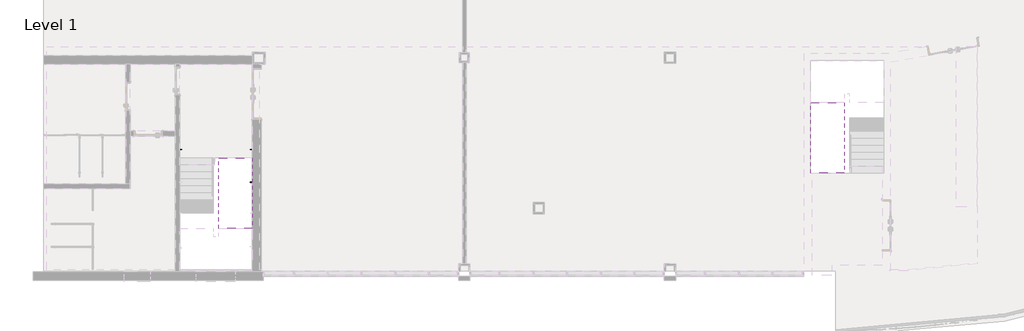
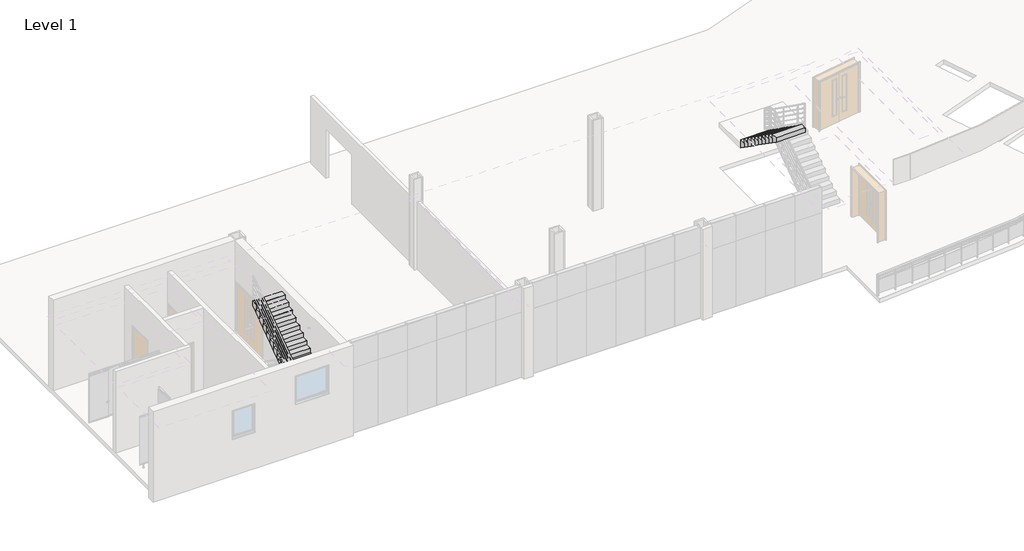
# One storey, part 10 of 12: 3 proxies, 2 stair flights.
"""IFC4 building model written with IfcOpenShell, lengths in millimetres."""

from ifc_helpers import new_model, si_unit, frame, origin, place, context, project, spatial, polyline, outline, extrude, faceted_brep, transform, mapped, element, save
from components import support_metal_circular_support_metal_circular_016e83f0

model = new_model("IFC4")

# Units and contexts
model_context = context("Model", 3, world=origin())
ifc_project = project(units=[si_unit("LENGTHUNIT", "METRE", prefix="MILLI")], contexts=[model_context])

# Site, building, storey
site = spatial("IfcSite", under=ifc_project)
building = spatial("IfcBuilding", under=site)
storey = spatial("IfcBuildingStorey", under=building, Name="Level 1", Elevation=3900.0)

# Proxies
placement = place(None, origin())
support_metal_circular_support_metal_circular_shape = support_metal_circular_support_metal_circular_016e83f0(model_context)
element("IfcBuildingElementProxy", 1, Name="Support - Metal - Circular : Support - Metal - Circular", ObjectType="Support - Metal - Circular : Support - Metal - Circular", at=placement, inside=storey, context=model_context, shape_type="MappedRepresentation", body=[
    mapped(support_metal_circular_support_metal_circular_shape, transform((5322.6000025, 4600.0, 4959.7727273), x_axis=(0.0, 1.0, 0.0), y_axis=(-1.0, 0.0, 0.0), z_axis=(0.0, 0.0, 1.0))),
])
element("IfcBuildingElementProxy", 2, Name="Support - Metal - Circular : Support - Metal - Circular", ObjectType="Support - Metal - Circular : Support - Metal - Circular", at=placement, inside=storey, context=model_context, shape_type="MappedRepresentation", body=[
    mapped(support_metal_circular_support_metal_circular_shape, transform((7761.8000023, 3437.7155261, 4171.0619185), x_axis=(0.0, -1.0, 0.0), y_axis=(1.0, 0.0, 0.0), z_axis=(0.0, 0.0, 1.0))),
])
element("IfcBuildingElementProxy", 3, Name="Support - Metal - Circular : Support - Metal - Circular", ObjectType="Support - Metal - Circular : Support - Metal - Circular", at=placement, inside=storey, context=model_context, shape_type="MappedRepresentation", body=[
    mapped(support_metal_circular_support_metal_circular_shape, transform((7761.8000023, 4600.0, 4782.5), x_axis=(0.0, -1.0, 0.0), y_axis=(1.0, 0.0, 0.0), z_axis=(0.0, 0.0, 1.0))),
])

# Stair flights
element("IfcStairFlight", 4, ObjectType="1/16\"_Tread-6\"_Depth", at=placement, inside=storey, context=model_context, shape_type="SolidModel", body=[
    faceted_brep([(6637.2000026, 2050.0, 6026.2727273), (6637.2000026, 1800.0, 6026.2727273), (7837.2000024, 1800.0, 6026.2727273), (7837.2000024, 2050.0, 6026.2727273), (6637.2000026, 2050.0, 5842.3890055), (6637.2000026, 1800.0, 5665.1162782), (6637.2000026, 1800.0, 5849.0), (7837.2000024, 1800.0, 5665.1162782), (7837.2000024, 1800.0, 5849.0), (7837.2000024, 2050.0, 5842.3890055), (6637.2000026, 2300.0, 6203.5454545), (6637.2000026, 2050.0, 6203.5454545), (7837.2000024, 2050.0, 6203.5454545), (7837.2000024, 2300.0, 6203.5454545), (6637.2000026, 2300.0, 6019.6617328), (7837.2000024, 2300.0, 6019.6617328), (6637.2000026, 2550.0, 6380.8181818), (6637.2000026, 2300.0, 6380.8181818), (7837.2000024, 2300.0, 6380.8181818), (7837.2000024, 2550.0, 6380.8181818), (6637.2000026, 2550.0, 6196.93446), (7837.2000024, 2550.0, 6196.93446), (6637.2000026, 2800.0, 6558.0909091), (6637.2000026, 2550.0, 6558.0909091), (7837.2000024, 2550.0, 6558.0909091), (7837.2000024, 2800.0, 6558.0909091), (6637.2000026, 2800.0, 6374.2071873), (7837.2000024, 2800.0, 6374.2071873), (6637.2000026, 3050.0, 6735.3636364), (6637.2000026, 2800.0, 6735.3636364), (7837.2000024, 2800.0, 6735.3636364), (7837.2000024, 3050.0, 6735.3636364), (6637.2000026, 3050.0, 6551.4799146), (7837.2000024, 3050.0, 6551.4799146), (6637.2000026, 3300.0, 6912.6363636), (6637.2000026, 3050.0, 6912.6363636), (7837.2000024, 3050.0, 6912.6363636), (7837.2000024, 3300.0, 6912.6363636), (6637.2000026, 3300.0, 6728.7526418), (7837.2000024, 3300.0, 6728.7526418), (6637.2000026, 3550.0, 7089.9090909), (6637.2000026, 3300.0, 7089.9090909), (7837.2000024, 3300.0, 7089.9090909), (7837.2000024, 3550.0, 7089.9090909), (6637.2000026, 3550.0, 6906.0253691), (7837.2000024, 3550.0, 6906.0253691), (6637.2000026, 3800.0, 7267.1818182), (6637.2000026, 3550.0, 7267.1818182), (7837.2000024, 3550.0, 7267.1818182), (7837.2000024, 3800.0, 7267.1818182), (6637.2000026, 3800.0, 7083.2980964), (7837.2000024, 3800.0, 7083.2980964), (6637.2000026, 4050.0, 7444.4545455), (6637.2000026, 3800.0, 7444.4545455), (7837.2000024, 3800.0, 7444.4545455), (7837.2000024, 4050.0, 7444.4545455), (6637.2000026, 4050.0, 7260.5708237), (7837.2000024, 4050.0, 7260.5708237), (6637.2000026, 4300.0, 7437.8435509), (7837.2000024, 4300.0, 7437.8435509), (6637.2000026, 4300.0, 7621.7272727), (6637.2000026, 4050.0, 7621.7272727), (7837.2000024, 4050.0, 7621.7272727), (7837.2000024, 4300.0, 7621.7272727)], [[[0, 1, 2, 3]], [[1, 0, 4, 5, 6]], [[2, 1, 6, 5, 7, 8]], [[3, 2, 8, 7, 9]], [[10, 11, 12, 13]], [[11, 10, 14, 4, 0]], [[12, 11, 0, 3]], [[13, 12, 3, 9, 15]], [[16, 17, 18, 19]], [[17, 16, 20, 14, 10]], [[18, 17, 10, 13]], [[19, 18, 13, 15, 21]], [[22, 23, 24, 25]], [[23, 22, 26, 20, 16]], [[24, 23, 16, 19]], [[25, 24, 19, 21, 27]], [[28, 29, 30, 31]], [[29, 28, 32, 26, 22]], [[30, 29, 22, 25]], [[31, 30, 25, 27, 33]], [[34, 35, 36, 37]], [[35, 34, 38, 32, 28]], [[36, 35, 28, 31]], [[37, 36, 31, 33, 39]], [[40, 41, 42, 43]], [[41, 40, 44, 38, 34]], [[42, 41, 34, 37]], [[43, 42, 37, 39, 45]], [[46, 47, 48, 49]], [[47, 46, 50, 44, 40]], [[48, 47, 40, 43]], [[49, 48, 43, 45, 51]], [[52, 53, 54, 55]], [[53, 52, 56, 50, 46]], [[54, 53, 46, 49]], [[55, 54, 49, 51, 57]], [[5, 4, 14, 20, 26, 32, 38, 44, 50, 56, 58, 59, 57, 51, 45, 39, 33, 27, 21, 15, 9, 7]], [[60, 61, 62, 63]], [[61, 60, 58, 56, 52]], [[62, 61, 52, 55]], [[63, 62, 55, 57, 59]], [[60, 63, 59, 58]]]),
    extrude(outline(polyline([(6637.2000026, 2050.0), (7837.2000024, 2050.0), (7837.2000024, 1800.0), (6637.2000026, 1800.0), (6637.2000026, 2050.0)])), frame((0.0, 0.0, 6026.2727273), z_axis=(0.0, 0.0, 1.0), x_axis=(1.0, 0.0, 0.0)), (0.0, 0.0, 1.0), 1.0),
    extrude(outline(polyline([(6637.2000026, 2300.0), (7837.2000024, 2300.0), (7837.2000024, 2050.0), (6637.2000026, 2050.0), (6637.2000026, 2300.0)])), frame((0.0, 0.0, 6203.5454545), z_axis=(0.0, 0.0, 1.0), x_axis=(1.0, 0.0, 0.0)), (0.0, 0.0, 1.0), 1.0),
    extrude(outline(polyline([(6637.2000026, 2550.0), (7837.2000024, 2550.0), (7837.2000024, 2300.0), (6637.2000026, 2300.0), (6637.2000026, 2550.0)])), frame((0.0, 0.0, 6380.8181818), z_axis=(0.0, 0.0, 1.0), x_axis=(1.0, 0.0, 0.0)), (0.0, 0.0, 1.0), 1.0),
    extrude(outline(polyline([(6637.2000026, 2800.0), (7837.2000024, 2800.0), (7837.2000024, 2550.0), (6637.2000026, 2550.0), (6637.2000026, 2800.0)])), frame((0.0, 0.0, 6558.0909091), z_axis=(0.0, 0.0, 1.0), x_axis=(1.0, 0.0, 0.0)), (0.0, 0.0, 1.0), 1.0),
    extrude(outline(polyline([(6637.2000026, 3050.0), (7837.2000024, 3050.0), (7837.2000024, 2800.0), (6637.2000026, 2800.0), (6637.2000026, 3050.0)])), frame((0.0, 0.0, 6735.3636364), z_axis=(0.0, 0.0, 1.0), x_axis=(1.0, 0.0, 0.0)), (0.0, 0.0, 1.0), 1.0),
    extrude(outline(polyline([(6637.2000026, 3300.0), (7837.2000024, 3300.0), (7837.2000024, 3050.0), (6637.2000026, 3050.0), (6637.2000026, 3300.0)])), frame((0.0, 0.0, 6912.6363636), z_axis=(0.0, 0.0, 1.0), x_axis=(1.0, 0.0, 0.0)), (0.0, 0.0, 1.0), 1.0),
    extrude(outline(polyline([(6637.2000026, 3550.0), (7837.2000024, 3550.0), (7837.2000024, 3300.0), (6637.2000026, 3300.0), (6637.2000026, 3550.0)])), frame((0.0, 0.0, 7089.9090909), z_axis=(0.0, 0.0, 1.0), x_axis=(1.0, 0.0, 0.0)), (0.0, 0.0, 1.0), 1.0),
    extrude(outline(polyline([(6637.2000026, 3800.0), (7837.2000024, 3800.0), (7837.2000024, 3550.0), (6637.2000026, 3550.0), (6637.2000026, 3800.0)])), frame((0.0, 0.0, 7267.1818182), z_axis=(0.0, 0.0, 1.0), x_axis=(1.0, 0.0, 0.0)), (0.0, 0.0, 1.0), 1.0),
    extrude(outline(polyline([(6637.2000026, 4050.0), (7837.2000024, 4050.0), (7837.2000024, 3800.0), (6637.2000026, 3800.0), (6637.2000026, 4050.0)])), frame((0.0, 0.0, 7444.4545455), z_axis=(0.0, 0.0, 1.0), x_axis=(1.0, 0.0, 0.0)), (0.0, 0.0, 1.0), 1.0),
    extrude(outline(polyline([(6637.2000026, 4300.0), (7837.2000024, 4300.0), (7837.2000024, 4050.0), (6637.2000026, 4050.0), (6637.2000026, 4300.0)])), frame((0.0, 0.0, 7621.7272727), z_axis=(0.0, 0.0, 1.0), x_axis=(1.0, 0.0, 0.0)), (0.0, 0.0, 1.0), 1.0),
])
element("IfcStairFlight", 5, ObjectType="1/16\"_Tread-6\"_Depth", at=placement, inside=storey, context=model_context, shape_type="SolidModel", body=[
    faceted_brep([(28862.2000029, 6013.2000006, 6026.2727273), (28862.2000029, 6263.2000006, 6026.2727273), (27662.2000031, 6263.2000006, 6026.2727273), (27662.2000031, 6013.2000006, 6026.2727273), (28862.2000029, 6013.2000006, 5842.3890055), (28862.2000029, 6263.2000006, 5665.1162782), (28862.2000029, 6263.2000006, 5849.0), (27662.2000031, 6263.2000006, 5665.1162782), (27662.2000031, 6263.2000006, 5849.0), (27662.2000031, 6013.2000006, 5842.3890055), (28862.2000029, 5763.2000006, 6203.5454545), (28862.2000029, 6013.2000006, 6203.5454545), (27662.2000031, 6013.2000006, 6203.5454545), (27662.2000031, 5763.2000006, 6203.5454545), (28862.2000029, 5763.2000006, 6019.6617328), (27662.2000031, 5763.2000006, 6019.6617328), (28862.2000029, 5513.2000006, 6380.8181818), (28862.2000029, 5763.2000006, 6380.8181818), (27662.2000031, 5763.2000006, 6380.8181818), (27662.2000031, 5513.2000006, 6380.8181818), (28862.2000029, 5513.2000006, 6196.93446), (27662.2000031, 5513.2000006, 6196.93446), (28862.2000029, 5263.2000006, 6558.0909091), (28862.2000029, 5513.2000006, 6558.0909091), (27662.2000031, 5513.2000006, 6558.0909091), (27662.2000031, 5263.2000006, 6558.0909091), (28862.2000029, 5263.2000006, 6374.2071873), (27662.2000031, 5263.2000006, 6374.2071873), (28862.2000029, 5013.2000006, 6735.3636364), (28862.2000029, 5263.2000006, 6735.3636364), (27662.2000031, 5263.2000006, 6735.3636364), (27662.2000031, 5013.2000006, 6735.3636364), (28862.2000029, 5013.2000006, 6551.4799146), (27662.2000031, 5013.2000006, 6551.4799146), (28862.2000029, 4763.2000006, 6912.6363636), (28862.2000029, 5013.2000006, 6912.6363636), (27662.2000031, 5013.2000006, 6912.6363636), (27662.2000031, 4763.2000006, 6912.6363636), (28862.2000029, 4763.2000006, 6728.7526418), (27662.2000031, 4763.2000006, 6728.7526418), (28862.2000029, 4513.2000006, 7089.9090909), (28862.2000029, 4763.2000006, 7089.9090909), (27662.2000031, 4763.2000006, 7089.9090909), (27662.2000031, 4513.2000006, 7089.9090909), (28862.2000029, 4513.2000006, 6906.0253691), (27662.2000031, 4513.2000006, 6906.0253691), (28862.2000029, 4263.2000006, 7267.1818182), (28862.2000029, 4513.2000006, 7267.1818182), (27662.2000031, 4513.2000006, 7267.1818182), (27662.2000031, 4263.2000006, 7267.1818182), (28862.2000029, 4263.2000006, 7083.2980964), (27662.2000031, 4263.2000006, 7083.2980964), (28862.2000029, 4013.2000006, 7444.4545455), (28862.2000029, 4263.2000006, 7444.4545455), (27662.2000031, 4263.2000006, 7444.4545455), (27662.2000031, 4013.2000006, 7444.4545455), (28862.2000029, 4013.2000006, 7260.5708237), (27662.2000031, 4013.2000006, 7260.5708237), (28862.2000029, 3763.2000006, 7437.8435509), (27662.2000031, 3763.2000006, 7437.8435509), (28862.2000029, 3763.2000006, 7621.7272727), (28862.2000029, 4013.2000006, 7621.7272727), (27662.2000031, 4013.2000006, 7621.7272727), (27662.2000031, 3763.2000006, 7621.7272727)], [[[0, 1, 2, 3]], [[1, 0, 4, 5, 6]], [[2, 1, 6, 5, 7, 8]], [[3, 2, 8, 7, 9]], [[10, 11, 12, 13]], [[11, 10, 14, 4, 0]], [[12, 11, 0, 3]], [[13, 12, 3, 9, 15]], [[16, 17, 18, 19]], [[17, 16, 20, 14, 10]], [[18, 17, 10, 13]], [[19, 18, 13, 15, 21]], [[22, 23, 24, 25]], [[23, 22, 26, 20, 16]], [[24, 23, 16, 19]], [[25, 24, 19, 21, 27]], [[28, 29, 30, 31]], [[29, 28, 32, 26, 22]], [[30, 29, 22, 25]], [[31, 30, 25, 27, 33]], [[34, 35, 36, 37]], [[35, 34, 38, 32, 28]], [[36, 35, 28, 31]], [[37, 36, 31, 33, 39]], [[40, 41, 42, 43]], [[41, 40, 44, 38, 34]], [[42, 41, 34, 37]], [[43, 42, 37, 39, 45]], [[46, 47, 48, 49]], [[47, 46, 50, 44, 40]], [[48, 47, 40, 43]], [[49, 48, 43, 45, 51]], [[52, 53, 54, 55]], [[53, 52, 56, 50, 46]], [[54, 53, 46, 49]], [[55, 54, 49, 51, 57]], [[5, 4, 14, 20, 26, 32, 38, 44, 50, 56, 58, 59, 57, 51, 45, 39, 33, 27, 21, 15, 9, 7]], [[60, 61, 62, 63]], [[61, 60, 58, 56, 52]], [[62, 61, 52, 55]], [[63, 62, 55, 57, 59]], [[60, 63, 59, 58]]]),
    extrude(outline(polyline([(28862.2000029, 6013.2000006), (27662.2000031, 6013.2000006), (27662.2000031, 6263.2000006), (28862.2000029, 6263.2000006), (28862.2000029, 6013.2000006)])), frame((0.0, 0.0, 6026.2727273), z_axis=(0.0, 0.0, 1.0), x_axis=(1.0, 0.0, 0.0)), (0.0, 0.0, 1.0), 1.0),
    extrude(outline(polyline([(28862.2000029, 5763.2000006), (27662.2000031, 5763.2000006), (27662.2000031, 6013.2000006), (28862.2000029, 6013.2000006), (28862.2000029, 5763.2000006)])), frame((0.0, 0.0, 6203.5454545), z_axis=(0.0, 0.0, 1.0), x_axis=(1.0, 0.0, 0.0)), (0.0, 0.0, 1.0), 1.0),
    extrude(outline(polyline([(28862.2000029, 5513.2000006), (27662.2000031, 5513.2000006), (27662.2000031, 5763.2000006), (28862.2000029, 5763.2000006), (28862.2000029, 5513.2000006)])), frame((0.0, 0.0, 6380.8181818), z_axis=(0.0, 0.0, 1.0), x_axis=(1.0, 0.0, 0.0)), (0.0, 0.0, 1.0), 1.0),
    extrude(outline(polyline([(28862.2000029, 5263.2000006), (27662.2000031, 5263.2000006), (27662.2000031, 5513.2000006), (28862.2000029, 5513.2000006), (28862.2000029, 5263.2000006)])), frame((0.0, 0.0, 6558.0909091), z_axis=(0.0, 0.0, 1.0), x_axis=(1.0, 0.0, 0.0)), (0.0, 0.0, 1.0), 1.0),
    extrude(outline(polyline([(28862.2000029, 5013.2000006), (27662.2000031, 5013.2000006), (27662.2000031, 5263.2000006), (28862.2000029, 5263.2000006), (28862.2000029, 5013.2000006)])), frame((0.0, 0.0, 6735.3636364), z_axis=(0.0, 0.0, 1.0), x_axis=(1.0, 0.0, 0.0)), (0.0, 0.0, 1.0), 1.0),
    extrude(outline(polyline([(28862.2000029, 4763.2000006), (27662.2000031, 4763.2000006), (27662.2000031, 5013.2000006), (28862.2000029, 5013.2000006), (28862.2000029, 4763.2000006)])), frame((0.0, 0.0, 6912.6363636), z_axis=(0.0, 0.0, 1.0), x_axis=(1.0, 0.0, 0.0)), (0.0, 0.0, 1.0), 1.0),
    extrude(outline(polyline([(28862.2000029, 4513.2000006), (27662.2000031, 4513.2000006), (27662.2000031, 4763.2000006), (28862.2000029, 4763.2000006), (28862.2000029, 4513.2000006)])), frame((0.0, 0.0, 7089.9090909), z_axis=(0.0, 0.0, 1.0), x_axis=(1.0, 0.0, 0.0)), (0.0, 0.0, 1.0), 1.0),
    extrude(outline(polyline([(28862.2000029, 4263.2000006), (27662.2000031, 4263.2000006), (27662.2000031, 4513.2000006), (28862.2000029, 4513.2000006), (28862.2000029, 4263.2000006)])), frame((0.0, 0.0, 7267.1818182), z_axis=(0.0, 0.0, 1.0), x_axis=(1.0, 0.0, 0.0)), (0.0, 0.0, 1.0), 1.0),
    extrude(outline(polyline([(28862.2000029, 4013.2000006), (27662.2000031, 4013.2000006), (27662.2000031, 4263.2000006), (28862.2000029, 4263.2000006), (28862.2000029, 4013.2000006)])), frame((0.0, 0.0, 7444.4545455), z_axis=(0.0, 0.0, 1.0), x_axis=(1.0, 0.0, 0.0)), (0.0, 0.0, 1.0), 1.0),
    extrude(outline(polyline([(28862.2000029, 3763.2000006), (27662.2000031, 3763.2000006), (27662.2000031, 4013.2000006), (28862.2000029, 4013.2000006), (28862.2000029, 3763.2000006)])), frame((0.0, 0.0, 7621.7272727), z_axis=(0.0, 0.0, 1.0), x_axis=(1.0, 0.0, 0.0)), (0.0, 0.0, 1.0), 1.0),
])

save(model, "model.ifc")
